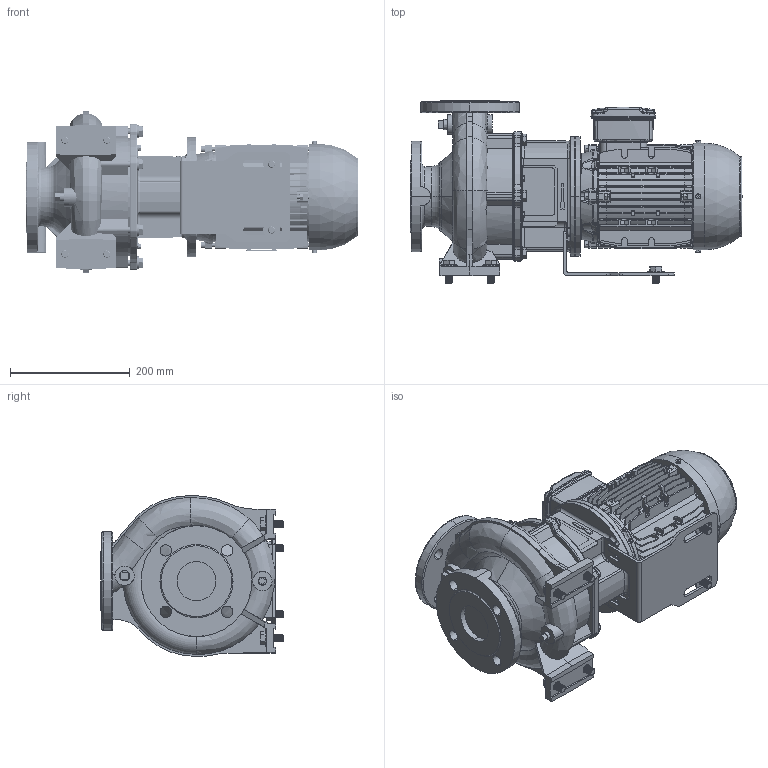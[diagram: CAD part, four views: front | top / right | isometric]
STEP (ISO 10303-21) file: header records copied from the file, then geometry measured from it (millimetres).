
FILE_DESCRIPTION (( 'STEP AP214' ), '1' );
FILE_NAME ('GSD4 50-125_1.1_(90SL)_W21.STEP', '2026-06-18T06:10:41', ( '' ), ( '' ), 'SwSTEP 2.0', 'SolidWorks 2024', '' );
FILE_SCHEMA (( 'AUTOMOTIVE_DESIGN' ));
Length unit declared in the file: millimetre
Products named in the file (7): Parametric Flat Washer_M12; CGSD1-4133; Parametric bolt_SFT-A295B; 50-125-90S_L_ﾃﾞﾌｫﾙﾄ; Parametric bolt_SFT-A299B; GSD4 50-125_1.1_(90SL)_W21; 90S_L ALIE3_W21T_B5
Assembly tree (15 placements, depth 2):
  GSD4 50-125_1.1_(90SL)_W21
    50-125-90S_L_ﾃﾞﾌｫﾙﾄ
    90S_L ALIE3_W21T_B5
    CGSD1-4133
    Parametric bolt_SFT-A299B  x4
    Parametric bolt_SFT-A295B  x2
    Parametric Flat Washer_M12  x6
Bounding box: 554 x 305 x 268.83 mm (x, y, z)
Volume: 12753608.1 mm3; surface area: 1105305.3 mm2
Topology: 18 solids, 22 shells, 3666 faces, 9646 edges, 6196 vertices
Faces by surface type: plane 1890, cylinder 1015, torus 287, bspline 273, cone 179, sphere 22
Entity records: 184330 total; most frequent: CARTESIAN_POINT 102441, ORIENTED_EDGE 17926, DIRECTION 15718, EDGE_CURVE 8963, VERTEX_POINT 5783, AXIS2_PLACEMENT_3D 5268, LINE 5182, VECTOR 5182
